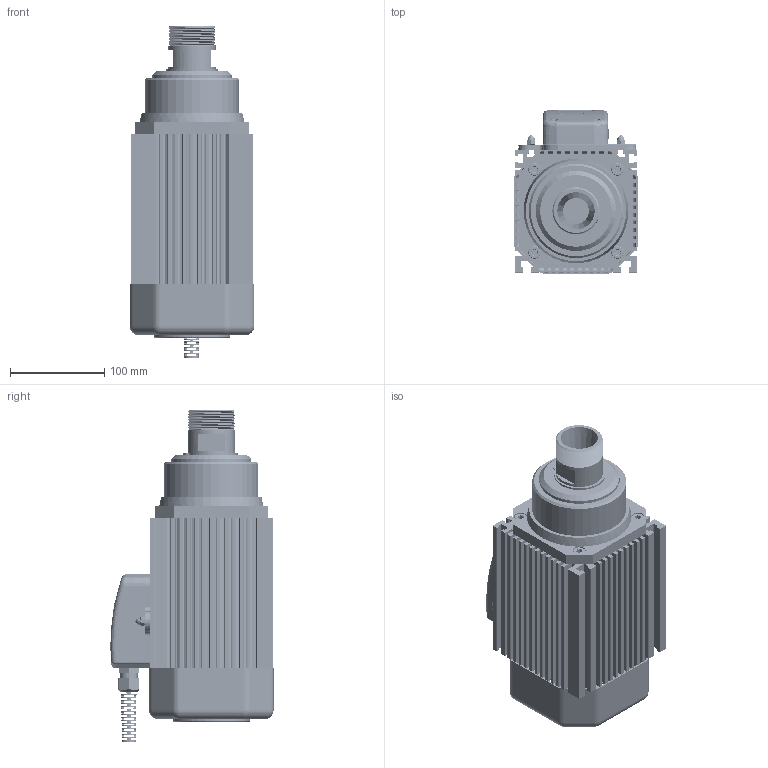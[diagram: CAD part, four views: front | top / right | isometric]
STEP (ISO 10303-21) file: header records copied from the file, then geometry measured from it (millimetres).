
FILE_DESCRIPTION (( 'STEP AP203' ), '1' );
FILE_NAME ('ARFM.4K-S ER 40.STEP', '2022-04-04T11:56:56', ( '' ), ( '' ), 'SwSTEP 2.0', 'SolidWorks 2014', '' );
FILE_SCHEMA (( 'CONFIG_CONTROL_DESIGN' ));
Length unit declared in the file: millimetre
Products named in the file (22): Arfm.4K Plastik Tas Kapak; Yukseltme Parcasi; rekor3; Arfm.4K Rotor Mili ER 40; M5x10 inpus_91290A252; M8x20 inpus_96144A215; Somun M5 K顤; rekor1; Arfm.4T Takým Deðiþtirmeli Ön Kapak; Somun M5_90592A095; klemens kutusu montaj tabansýz; 471-50 Sekman_98541A167; Klemens Kutusu  alt tabansýz; Arfm.4K-S Gövdesi; ARFM.4K-S ER 40; M4x10 inpus_91290A176; rekor2; Arfm.4T Takým Deðiþtirmeli Ön Toz Kapak; no1 motor klemensi; 4K Klemens Kutusu Montaj; Arfm.4K Plastik Klemens Altlýk; Klemens Kutusu Kapaðý Kademeli
Assembly tree (38 placements, depth 4):
  ARFM.4K-S ER 40
    Arfm.4K-S Gövdesi
    Arfm.4K Plastik Tas Kapak
    Arfm.4T Takým Deðiþtirmeli Ön Kapak
    Arfm.4T Takým Deðiþtirmeli Ön Toz Kapak
    Arfm.4K Rotor Mili ER 40
    471-50 Sekman_98541A167
    4K Klemens Kutusu Montaj
      Arfm.4K Plastik Klemens Altlýk
      Somun M5 K顤  x3
      M4x10 inpus_91290A176  x4
      Yukseltme Parcasi  x4
      Somun M5_90592A095  x6
      no1 motor klemensi
      M5x10 inpus_91290A252  x2
      klemens kutusu montaj tabansýz
        Klemens Kutusu  alt tabansýz
        Klemens Kutusu Kapaðý Kademeli
        rekor1
        rekor2
        rekor3
    M8x20 inpus_96144A215  x4
Bounding box: 132 x 172.94 x 352.01 mm (x, y, z)
Volume: 1407819.6 mm3; surface area: 581317.3 mm2
Topology: 54 solids, 54 shells, 3802 faces, 10301 edges, 6599 vertices
Faces by surface type: cylinder 1677, plane 1371, cone 542, bspline 137, torus 45, sphere 30
Entity records: 104503 total; most frequent: CARTESIAN_POINT 34619, ORIENTED_EDGE 14852, DIRECTION 13163, EDGE_CURVE 7426, VERTEX_POINT 4789, AXIS2_PLACEMENT_3D 4602, VECTOR 3959, LINE 3959
